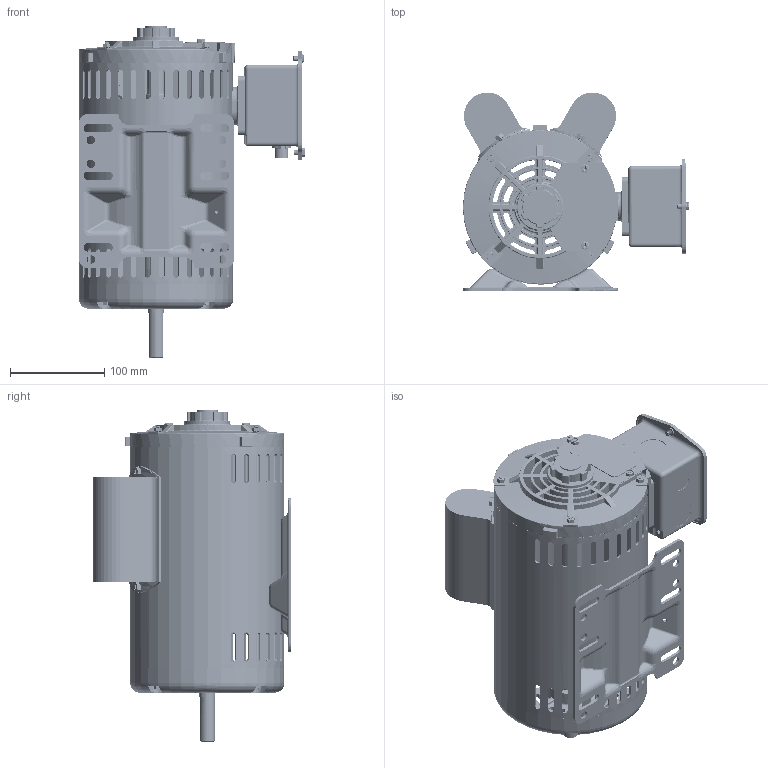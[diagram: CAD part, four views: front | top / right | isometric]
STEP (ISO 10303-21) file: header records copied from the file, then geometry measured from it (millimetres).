
FILE_DESCRIPTION (( 'STEP AP203' ), '1' );
FILE_NAME ('×°ÅäÌå4.STEP', '2024-12-19T06:54:18', ( 'User' ), ( 'China' ), 'SwSTEP 2.0', 'SolidWorks 2019', '' );
FILE_SCHEMA (( 'CONFIG_CONTROL_DESIGN' ));
Length unit declared in the file: millimetre
Products named in the file (12): 菁褐2; 蹟佪; 郋粣 - 萵掛; saitou; 蹟裝 - 萵掛; 蚾饜极4; 11; 爾え; 翋极; 堤盄碟; KRD-BFP163SA02-1; gd
Assembly tree (22 placements, depth 2):
  蚾饜极4
    翋极
    KRD-BFP163SA02-1
    菁褐2
    郋粣 - 萵掛
    蹟裝 - 萵掛  x4
    11  x4
    爾え
    堤盄碟
    gd
    蹟佪  x6
    saitou
Bounding box: 240.52 x 211.34 x 353.15 mm (x, y, z)
Volume: 933802.1 mm3; surface area: 722076.4 mm2
Topology: 35 solids, 35 shells, 4085 faces, 10512 edges, 6448 vertices
Faces by surface type: cylinder 1734, plane 1142, cone 409, bspline 409, torus 305, sphere 86
Entity records: 126390 total; most frequent: CARTESIAN_POINT 52173, ORIENTED_EDGE 15878, DIRECTION 14412, EDGE_CURVE 7939, AXIS2_PLACEMENT_3D 5470, VERTEX_POINT 4943, LINE 3472, VECTOR 3472
